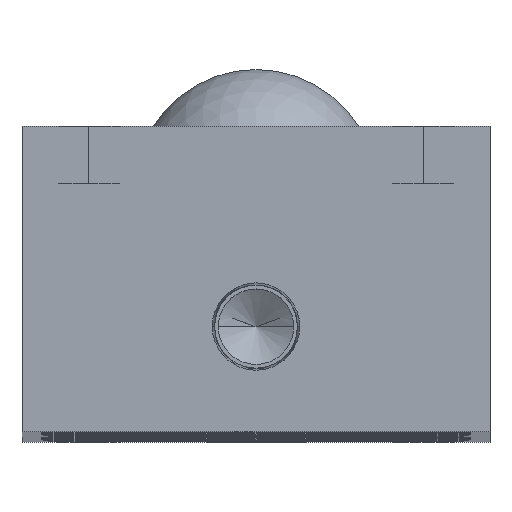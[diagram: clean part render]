
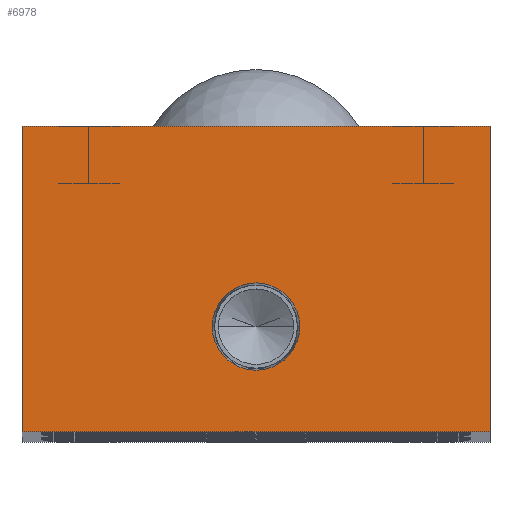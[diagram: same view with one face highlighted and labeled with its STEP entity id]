
A CAD part, top view. The second image highlights one B-rep face of the part: STEP entity #6978.
In plain terms, the highlighted planar face has unit normal (0, 0, 1).
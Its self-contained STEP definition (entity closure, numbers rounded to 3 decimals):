
#61 = EDGE_CURVE ( 'NONE', #4141, #10473, #10005, .T. ) ;
#283 = CIRCLE ( 'NONE', #14720, 4.574 ) ;
#289 = EDGE_CURVE ( 'NONE', #10473, #4141, #283, .T. ) ;
#676 = VECTOR ( 'NONE', #4710, 1000. ) ;
#728 = VECTOR ( 'NONE', #5645, 1000. ) ;
#911 = CARTESIAN_POINT ( 'NONE',  ( 24.5, 0., 0. ) ) ;
#1976 = CARTESIAN_POINT ( 'NONE',  ( -24.5, 32., 0. ) ) ;
#2031 = LINE ( 'NONE', #911, #14273 ) ;
#2105 = DIRECTION ( 'NONE',  ( 1., 0., 0. ) ) ;
#2288 = CARTESIAN_POINT ( 'NONE',  ( 24.5, 32., 0. ) ) ;
#2491 = DIRECTION ( 'NONE',  ( 1., 0., 0. ) ) ;
#2538 = DIRECTION ( 'NONE',  ( 0., 0., 1. ) ) ;
#2869 = VERTEX_POINT ( 'NONE', #10874 ) ;
#2874 = CARTESIAN_POINT ( 'NONE',  ( 0., 11., 0. ) ) ;
#3367 = FACE_OUTER_BOUND ( 'NONE', #14917, .T. ) ;
#3602 = EDGE_LOOP ( 'NONE', ( #15063, #9435 ) ) ;
#3690 = ORIENTED_EDGE ( 'NONE', *, *, #11318, .T. ) ;
#3922 = CARTESIAN_POINT ( 'NONE',  ( 24.5, 0., 0. ) ) ;
#4141 = VERTEX_POINT ( 'NONE', #6715 ) ;
#4165 = VERTEX_POINT ( 'NONE', #11583 ) ;
#4689 = DIRECTION ( 'NONE',  ( 1., 0., 0. ) ) ;
#4710 = DIRECTION ( 'NONE',  ( 0., 1., 0. ) ) ;
#5201 = CARTESIAN_POINT ( 'NONE',  ( 0., 0., 0. ) ) ;
#5326 = DIRECTION ( 'NONE',  ( 0., 0., 1. ) ) ;
#5375 = CARTESIAN_POINT ( 'NONE',  ( 0., 11., 0. ) ) ;
#5609 = AXIS2_PLACEMENT_3D ( 'NONE', #5201, #13486, #6392 ) ;
#5645 = DIRECTION ( 'NONE',  ( 0., -1., 0. ) ) ;
#6330 = DIRECTION ( 'NONE',  ( -1., 0., 0. ) ) ;
#6392 = DIRECTION ( 'NONE',  ( -1., 0., 0. ) ) ;
#6715 = CARTESIAN_POINT ( 'NONE',  ( -4.574, 11., 0. ) ) ;
#6827 = ORIENTED_EDGE ( 'NONE', *, *, #7638, .T. ) ;
#6978 = ADVANCED_FACE ( 'NONE', ( #12847, #3367 ), #8734, .F. ) ;
#7083 = LINE ( 'NONE', #12743, #728 ) ;
#7638 = EDGE_CURVE ( 'NONE', #12905, #4165, #7083, .T. ) ;
#7959 = VECTOR ( 'NONE', #6330, 1000. ) ;
#8734 = PLANE ( 'NONE',  #5609 ) ;
#9435 = ORIENTED_EDGE ( 'NONE', *, *, #61, .F. ) ;
#9579 = EDGE_CURVE ( 'NONE', #4165, #12721, #2031, .T. ) ;
#10005 = CIRCLE ( 'NONE', #11866, 4.574 ) ;
#10189 = LINE ( 'NONE', #2288, #676 ) ;
#10473 = VERTEX_POINT ( 'NONE', #14774 ) ;
#10874 = CARTESIAN_POINT ( 'NONE',  ( 24.5, 32., 0. ) ) ;
#10934 = EDGE_CURVE ( 'NONE', #2869, #12905, #11477, .T. ) ;
#11318 = EDGE_CURVE ( 'NONE', #12721, #2869, #10189, .T. ) ;
#11477 = LINE ( 'NONE', #12231, #7959 ) ;
#11583 = CARTESIAN_POINT ( 'NONE',  ( -24.5, 0., 0. ) ) ;
#11866 = AXIS2_PLACEMENT_3D ( 'NONE', #2874, #2538, #2491 ) ;
#12231 = CARTESIAN_POINT ( 'NONE',  ( -24.5, 32., 0. ) ) ;
#12721 = VERTEX_POINT ( 'NONE', #3922 ) ;
#12743 = CARTESIAN_POINT ( 'NONE',  ( -24.5, 0., 0. ) ) ;
#12847 = FACE_BOUND ( 'NONE', #3602, .T. ) ;
#12905 = VERTEX_POINT ( 'NONE', #1976 ) ;
#13486 = DIRECTION ( 'NONE',  ( 0., 0., -1. ) ) ;
#13841 = ORIENTED_EDGE ( 'NONE', *, *, #9579, .T. ) ;
#14273 = VECTOR ( 'NONE', #2105, 1000. ) ;
#14720 = AXIS2_PLACEMENT_3D ( 'NONE', #5375, #5326, #4689 ) ;
#14774 = CARTESIAN_POINT ( 'NONE',  ( 4.574, 11., 0. ) ) ;
#14917 = EDGE_LOOP ( 'NONE', ( #6827, #13841, #3690, #15019 ) ) ;
#15019 = ORIENTED_EDGE ( 'NONE', *, *, #10934, .T. ) ;
#15063 = ORIENTED_EDGE ( 'NONE', *, *, #289, .F. ) ;
